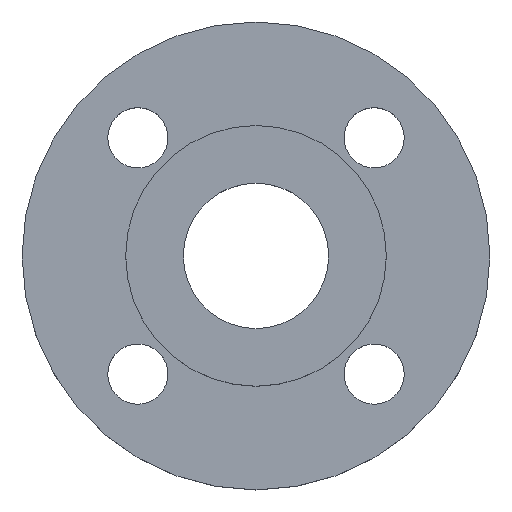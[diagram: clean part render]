
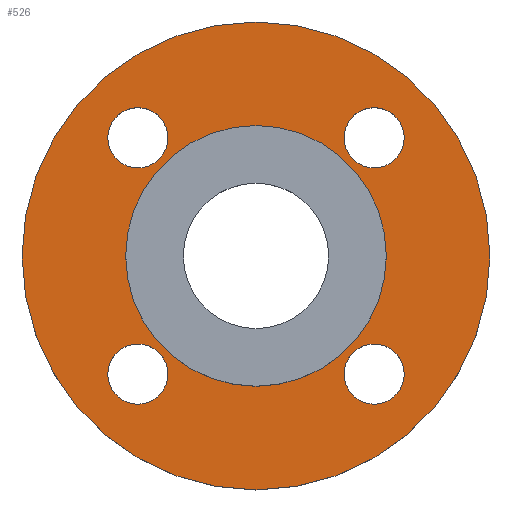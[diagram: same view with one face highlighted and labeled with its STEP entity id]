
A CAD part, top view. The second image highlights one B-rep face of the part: STEP entity #526.
In plain terms, the highlighted planar face has unit normal (0, 0, 1).
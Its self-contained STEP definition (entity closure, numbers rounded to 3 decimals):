
#6 = AXIS2_PLACEMENT_3D ( 'NONE', #669, #164, #378 ) ;
#13 = VERTEX_POINT ( 'NONE', #609 ) ;
#14 = DIRECTION ( 'NONE',  ( -1., 0., 0. ) ) ;
#20 = EDGE_CURVE ( 'NONE', #13, #292, #456, .T. ) ;
#21 = PLANE ( 'NONE',  #35 ) ;
#35 = AXIS2_PLACEMENT_3D ( 'NONE', #245, #463, #701 ) ;
#41 = DIRECTION ( 'NONE',  ( 1., 0., 0. ) ) ;
#42 = DIRECTION ( 'NONE',  ( 0., 0., 1. ) ) ;
#43 = EDGE_LOOP ( 'NONE', ( #282, #616 ) ) ;
#45 = DIRECTION ( 'NONE',  ( 0., 0., 1. ) ) ;
#50 = DIRECTION ( 'NONE',  ( 0., 0., -1. ) ) ;
#55 = VERTEX_POINT ( 'NONE', #288 ) ;
#57 = VERTEX_POINT ( 'NONE', #511 ) ;
#62 = AXIS2_PLACEMENT_3D ( 'NONE', #471, #711, #201 ) ;
#65 = CARTESIAN_POINT ( 'NONE',  ( 26.355, 35.355, 0. ) ) ;
#71 = FACE_BOUND ( 'NONE', #420, .T. ) ;
#73 = EDGE_CURVE ( 'NONE', #55, #214, #453, .T. ) ;
#82 = DIRECTION ( 'NONE',  ( 0., 0., -1. ) ) ;
#87 = CARTESIAN_POINT ( 'NONE',  ( -44.355, -35.355, 0. ) ) ;
#105 = CIRCLE ( 'NONE', #502, 28.5 ) ;
#112 = AXIS2_PLACEMENT_3D ( 'NONE', #154, #45, #268 ) ;
#117 = EDGE_CURVE ( 'NONE', #214, #55, #197, .T. ) ;
#119 = EDGE_CURVE ( 'NONE', #189, #389, #381, .T. ) ;
#120 = ORIENTED_EDGE ( 'NONE', *, *, #20, .T. ) ;
#121 = EDGE_CURVE ( 'NONE', #457, #57, #469, .T. ) ;
#124 = EDGE_CURVE ( 'NONE', #612, #278, #413, .T. ) ;
#125 = DIRECTION ( 'NONE',  ( 0., 0., -1. ) ) ;
#126 = AXIS2_PLACEMENT_3D ( 'NONE', #447, #687, #178 ) ;
#135 = FACE_BOUND ( 'NONE', #341, .T. ) ;
#139 = EDGE_LOOP ( 'NONE', ( #226, #548 ) ) ;
#141 = AXIS2_PLACEMENT_3D ( 'NONE', #187, #398, #627 ) ;
#154 = CARTESIAN_POINT ( 'NONE',  ( 0., 0., 0. ) ) ;
#164 = DIRECTION ( 'NONE',  ( 0., 0., -1. ) ) ;
#168 = AXIS2_PLACEMENT_3D ( 'NONE', #416, #421, #653 ) ;
#170 = ORIENTED_EDGE ( 'NONE', *, *, #262, .T. ) ;
#178 = DIRECTION ( 'NONE',  ( 1., 0., 0. ) ) ;
#187 = CARTESIAN_POINT ( 'NONE',  ( -35.355, -35.355, 0. ) ) ;
#189 = VERTEX_POINT ( 'NONE', #586 ) ;
#194 = AXIS2_PLACEMENT_3D ( 'NONE', #549, #50, #272 ) ;
#197 = CIRCLE ( 'NONE', #607, 9. ) ;
#201 = DIRECTION ( 'NONE',  ( -1., 0., 0. ) ) ;
#212 = CARTESIAN_POINT ( 'NONE',  ( -70., 0., 0. ) ) ;
#214 = VERTEX_POINT ( 'NONE', #87 ) ;
#223 = AXIS2_PLACEMENT_3D ( 'NONE', #286, #509, #14 ) ;
#226 = ORIENTED_EDGE ( 'NONE', *, *, #654, .F. ) ;
#245 = CARTESIAN_POINT ( 'NONE',  ( 0., 0., 0. ) ) ;
#255 = CIRCLE ( 'NONE', #684, 70. ) ;
#256 = ORIENTED_EDGE ( 'NONE', *, *, #119, .T. ) ;
#262 = EDGE_CURVE ( 'NONE', #278, #612, #255, .T. ) ;
#266 = DIRECTION ( 'NONE',  ( 1., 0., 0. ) ) ;
#268 = DIRECTION ( 'NONE',  ( 1., 0., 0. ) ) ;
#271 = EDGE_LOOP ( 'NONE', ( #448, #170 ) ) ;
#272 = DIRECTION ( 'NONE',  ( -1., 0., 0. ) ) ;
#275 = VERTEX_POINT ( 'NONE', #481 ) ;
#278 = VERTEX_POINT ( 'NONE', #212 ) ;
#279 = VERTEX_POINT ( 'NONE', #429 ) ;
#282 = ORIENTED_EDGE ( 'NONE', *, *, #73, .T. ) ;
#286 = CARTESIAN_POINT ( 'NONE',  ( -35.355, 35.355, 0. ) ) ;
#288 = CARTESIAN_POINT ( 'NONE',  ( -26.355, -35.355, 0. ) ) ;
#292 = VERTEX_POINT ( 'NONE', #318 ) ;
#294 = FACE_BOUND ( 'NONE', #139, .T. ) ;
#302 = DIRECTION ( 'NONE',  ( -1., 0., 0. ) ) ;
#313 = CARTESIAN_POINT ( 'NONE',  ( 0., 0., 0. ) ) ;
#316 = CIRCLE ( 'NONE', #6, 9. ) ;
#318 = CARTESIAN_POINT ( 'NONE',  ( -26.355, 35.355, 0. ) ) ;
#327 = ORIENTED_EDGE ( 'NONE', *, *, #370, .T. ) ;
#337 = DIRECTION ( 'NONE',  ( -1., 0., 0. ) ) ;
#341 = EDGE_LOOP ( 'NONE', ( #256, #514 ) ) ;
#345 = FACE_BOUND ( 'NONE', #43, .T. ) ;
#361 = EDGE_CURVE ( 'NONE', #389, #189, #316, .T. ) ;
#370 = EDGE_CURVE ( 'NONE', #57, #457, #501, .T. ) ;
#378 = DIRECTION ( 'NONE',  ( -1., 0., 0. ) ) ;
#381 = CIRCLE ( 'NONE', #62, 9. ) ;
#384 = CARTESIAN_POINT ( 'NONE',  ( 26.355, -35.355, 0. ) ) ;
#389 = VERTEX_POINT ( 'NONE', #384 ) ;
#398 = DIRECTION ( 'NONE',  ( 0., 0., -1. ) ) ;
#400 = EDGE_LOOP ( 'NONE', ( #735, #120 ) ) ;
#413 = CIRCLE ( 'NONE', #112, 70. ) ;
#416 = CARTESIAN_POINT ( 'NONE',  ( 35.355, 35.355, 0. ) ) ;
#420 = EDGE_LOOP ( 'NONE', ( #327, #450 ) ) ;
#421 = DIRECTION ( 'NONE',  ( 0., 0., -1. ) ) ;
#429 = CARTESIAN_POINT ( 'NONE',  ( -28.5, 0., 0. ) ) ;
#439 = CIRCLE ( 'NONE', #126, 28.5 ) ;
#447 = CARTESIAN_POINT ( 'NONE',  ( 0., 0., 0. ) ) ;
#448 = ORIENTED_EDGE ( 'NONE', *, *, #124, .T. ) ;
#450 = ORIENTED_EDGE ( 'NONE', *, *, #121, .T. ) ;
#451 = EDGE_CURVE ( 'NONE', #279, #275, #439, .T. ) ;
#453 = CIRCLE ( 'NONE', #141, 9. ) ;
#456 = CIRCLE ( 'NONE', #552, 9. ) ;
#457 = VERTEX_POINT ( 'NONE', #65 ) ;
#463 = DIRECTION ( 'NONE',  ( 0., 0., 1. ) ) ;
#469 = CIRCLE ( 'NONE', #168, 9. ) ;
#471 = CARTESIAN_POINT ( 'NONE',  ( 35.355, -35.355, 0. ) ) ;
#481 = CARTESIAN_POINT ( 'NONE',  ( 28.5, 0., 0. ) ) ;
#497 = EDGE_CURVE ( 'NONE', #292, #13, #523, .T. ) ;
#501 = CIRCLE ( 'NONE', #194, 9. ) ;
#502 = AXIS2_PLACEMENT_3D ( 'NONE', #539, #42, #266 ) ;
#509 = DIRECTION ( 'NONE',  ( 0., 0., -1. ) ) ;
#511 = CARTESIAN_POINT ( 'NONE',  ( 44.355, 35.355, 0. ) ) ;
#514 = ORIENTED_EDGE ( 'NONE', *, *, #361, .T. ) ;
#516 = FACE_OUTER_BOUND ( 'NONE', #271, .T. ) ;
#523 = CIRCLE ( 'NONE', #223, 9. ) ;
#526 = ADVANCED_FACE ( 'NONE', ( #135, #345, #570, #71, #294, #516 ), #21, .T. ) ;
#538 = DIRECTION ( 'NONE',  ( 0., 0., 1. ) ) ;
#539 = CARTESIAN_POINT ( 'NONE',  ( 0., 0., 0. ) ) ;
#548 = ORIENTED_EDGE ( 'NONE', *, *, #451, .F. ) ;
#549 = CARTESIAN_POINT ( 'NONE',  ( 35.355, 35.355, 0. ) ) ;
#552 = AXIS2_PLACEMENT_3D ( 'NONE', #620, #125, #337 ) ;
#570 = FACE_BOUND ( 'NONE', #400, .T. ) ;
#578 = CARTESIAN_POINT ( 'NONE',  ( -35.355, -35.355, 0. ) ) ;
#586 = CARTESIAN_POINT ( 'NONE',  ( 44.355, -35.355, 0. ) ) ;
#587 = CARTESIAN_POINT ( 'NONE',  ( 70., 0., 0. ) ) ;
#607 = AXIS2_PLACEMENT_3D ( 'NONE', #578, #82, #302 ) ;
#609 = CARTESIAN_POINT ( 'NONE',  ( -44.355, 35.355, 0. ) ) ;
#612 = VERTEX_POINT ( 'NONE', #587 ) ;
#616 = ORIENTED_EDGE ( 'NONE', *, *, #117, .T. ) ;
#620 = CARTESIAN_POINT ( 'NONE',  ( -35.355, 35.355, 0. ) ) ;
#627 = DIRECTION ( 'NONE',  ( -1., 0., 0. ) ) ;
#653 = DIRECTION ( 'NONE',  ( -1., 0., 0. ) ) ;
#654 = EDGE_CURVE ( 'NONE', #275, #279, #105, .T. ) ;
#669 = CARTESIAN_POINT ( 'NONE',  ( 35.355, -35.355, 0. ) ) ;
#684 = AXIS2_PLACEMENT_3D ( 'NONE', #313, #538, #41 ) ;
#687 = DIRECTION ( 'NONE',  ( 0., 0., 1. ) ) ;
#701 = DIRECTION ( 'NONE',  ( 1., 0., 0. ) ) ;
#711 = DIRECTION ( 'NONE',  ( 0., 0., -1. ) ) ;
#735 = ORIENTED_EDGE ( 'NONE', *, *, #497, .T. ) ;
